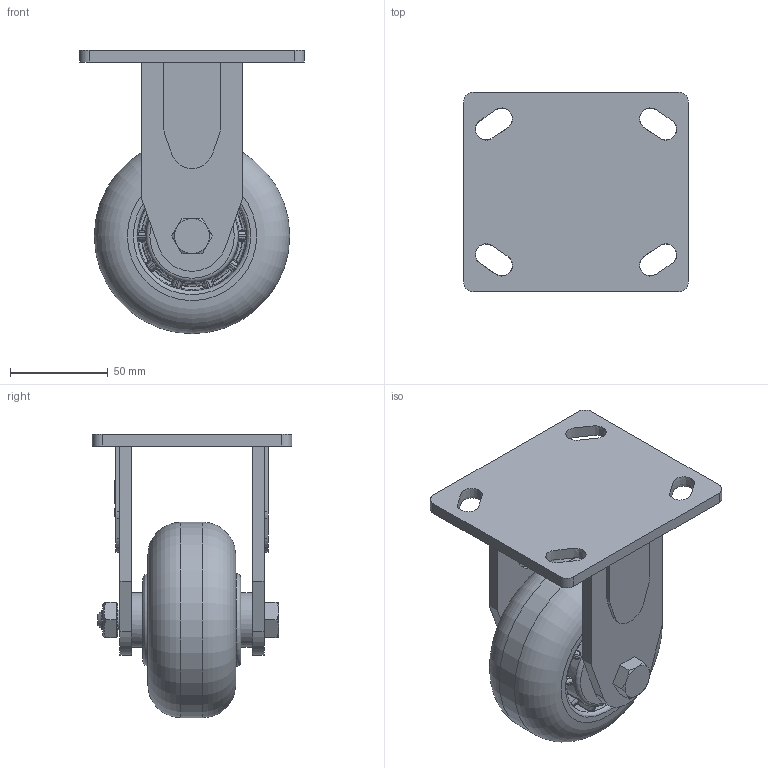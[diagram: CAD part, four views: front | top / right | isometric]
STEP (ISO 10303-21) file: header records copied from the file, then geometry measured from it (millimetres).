
FILE_DESCRIPTION(/* description */ (''),/* implementation_level */ '2;1');
FILE_NAME(/* name */ '35D03_4_F.stp',/* time_stamp */ '2022-10-17T13:23:13+08:00',/* author */ (''),/* organization */ (''),/* preprocessor_version */ 'ST-DEVELOPER v14',/* originating_system */ 'SIEMENS PLM Software NX 8.0',/* authorisation */ '');
FILE_SCHEMA (('AUTOMOTIVE_DESIGN { 1 0 10303 214 3 1 1 1 }'));
Length unit declared in the file: millimetre
Products named in the file (1): 35D03_4_F
Bounding box: 115 x 102 x 145 mm (x, y, z)
Volume: 424538.6 mm3; surface area: 93476.9 mm2
Topology: 1 solids, 1 shells, 843 faces, 2064 edges, 1257 vertices
Faces by surface type: bspline 363, plane 308, extrusion 84, cylinder 58, cone 27, torus 3
Full cylindrical faces by diameter (mm): 10.104 x2, 12 x1, 12.3 x4, 20.5 x2, 28 x2, 30.06 x1, 100 x1
Entity records: 36630 total; most frequent: CARTESIAN_POINT 21910, ORIENTED_EDGE 4040, EDGE_CURVE 2020, DIRECTION 1669, VERTEX_POINT 1243, EDGE_LOOP 917, ADVANCED_FACE 843, FACE_OUTER_BOUND 789
